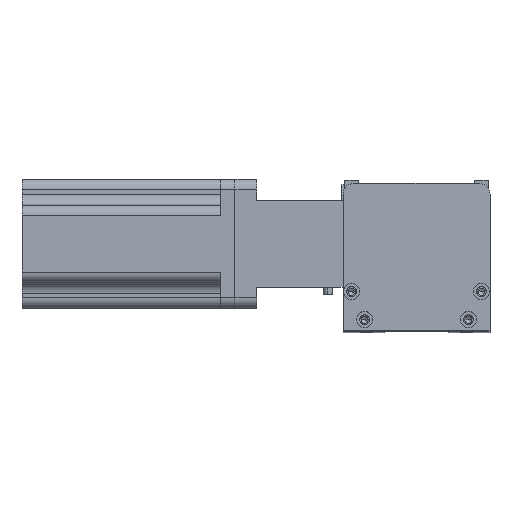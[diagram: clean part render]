
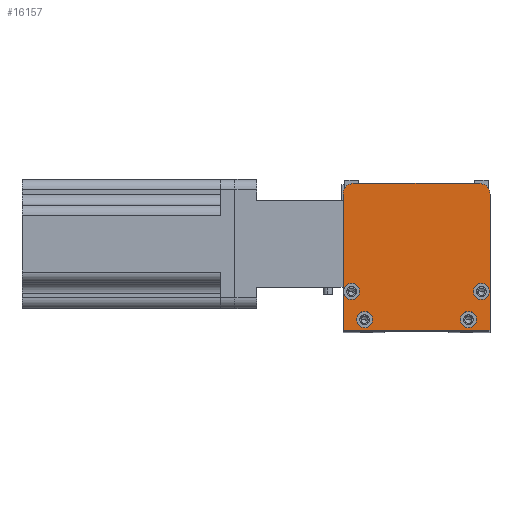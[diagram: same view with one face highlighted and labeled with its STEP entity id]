
A CAD part, top view. The second image highlights one B-rep face of the part: STEP entity #16157.
In plain terms, the highlighted planar face has unit normal (0, 0, 1) as drawn and (0, 0, -1) by its records, which use the part's own axes.
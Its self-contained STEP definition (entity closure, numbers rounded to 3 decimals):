
#373 = CARTESIAN_POINT ( 'NONE',  ( 63., 68., 0. ) ) ;
#496 = EDGE_CURVE ( 'NONE', #2301, #2922, #12650, .T. ) ;
#575 = CIRCLE ( 'NONE', #4475, 3.75 ) ;
#608 = VECTOR ( 'NONE', #11952, 1000. ) ;
#616 = CIRCLE ( 'NONE', #15157, 3.75 ) ;
#750 = FACE_BOUND ( 'NONE', #9769, .T. ) ;
#827 = CARTESIAN_POINT ( 'NONE',  ( 10., 5., 0. ) ) ;
#1018 = FACE_BOUND ( 'NONE', #12239, .T. ) ;
#1144 = CARTESIAN_POINT ( 'NONE',  ( 54.25, 5., 0. ) ) ;
#1243 = FACE_OUTER_BOUND ( 'NONE', #20964, .T. ) ;
#1267 = FACE_BOUND ( 'NONE', #1728, .T. ) ;
#1350 = CARTESIAN_POINT ( 'NONE',  ( 64., 18., 0. ) ) ;
#1420 = CARTESIAN_POINT ( 'NONE',  ( 7.75, 18., 0. ) ) ;
#1490 = FACE_BOUND ( 'NONE', #8173, .T. ) ;
#1728 = EDGE_LOOP ( 'NONE', ( #2124, #10707 ) ) ;
#1732 = EDGE_CURVE ( 'NONE', #18002, #15596, #8056, .T. ) ;
#1830 = DIRECTION ( 'NONE',  ( -1., 0., 0. ) ) ;
#2078 = LINE ( 'NONE', #19567, #608 ) ;
#2124 = ORIENTED_EDGE ( 'NONE', *, *, #8358, .F. ) ;
#2301 = VERTEX_POINT ( 'NONE', #2335 ) ;
#2335 = CARTESIAN_POINT ( 'NONE',  ( 61.75, 5., 0. ) ) ;
#2556 = DIRECTION ( 'NONE',  ( -1., 0., 0. ) ) ;
#2727 = DIRECTION ( 'NONE',  ( -1., 0., 0. ) ) ;
#2922 = VERTEX_POINT ( 'NONE', #1144 ) ;
#3001 = DIRECTION ( 'NONE',  ( 0., 0., 1. ) ) ;
#3230 = DIRECTION ( 'NONE',  ( -1., 0., 0. ) ) ;
#3483 = CARTESIAN_POINT ( 'NONE',  ( 6.25, 5., 0. ) ) ;
#3845 = ORIENTED_EDGE ( 'NONE', *, *, #16875, .F. ) ;
#3893 = VERTEX_POINT ( 'NONE', #12484 ) ;
#4475 = AXIS2_PLACEMENT_3D ( 'NONE', #24426, #12799, #1830 ) ;
#4509 = DIRECTION ( 'NONE',  ( 0., 0., -1. ) ) ;
#5171 = CARTESIAN_POINT ( 'NONE',  ( 67.75, 18., 0. ) ) ;
#5657 = CARTESIAN_POINT ( 'NONE',  ( 68., 0., 0. ) ) ;
#5693 = CARTESIAN_POINT ( 'NONE',  ( 63., 63., 0. ) ) ;
#5863 = EDGE_CURVE ( 'NONE', #11609, #7381, #17115, .T. ) ;
#5994 = EDGE_CURVE ( 'NONE', #7381, #18002, #16598, .T. ) ;
#6031 = ORIENTED_EDGE ( 'NONE', *, *, #23389, .F. ) ;
#6190 = CARTESIAN_POINT ( 'NONE',  ( 68., 0., 0. ) ) ;
#6444 = DIRECTION ( 'NONE',  ( -1., 0., 0. ) ) ;
#6632 = ORIENTED_EDGE ( 'NONE', *, *, #5994, .F. ) ;
#6685 = CARTESIAN_POINT ( 'NONE',  ( 4., 18., 0. ) ) ;
#7131 = AXIS2_PLACEMENT_3D ( 'NONE', #15536, #4509, #17477 ) ;
#7381 = VERTEX_POINT ( 'NONE', #8775 ) ;
#7556 = DIRECTION ( 'NONE',  ( 1., 0., 0. ) ) ;
#7817 = VECTOR ( 'NONE', #13462, 1000. ) ;
#7877 = ORIENTED_EDGE ( 'NONE', *, *, #19139, .F. ) ;
#8056 = LINE ( 'NONE', #6190, #7817 ) ;
#8173 = EDGE_LOOP ( 'NONE', ( #13208, #16594 ) ) ;
#8358 = EDGE_CURVE ( 'NONE', #2922, #2301, #9704, .T. ) ;
#8468 = PLANE ( 'NONE',  #20303 ) ;
#8490 = VERTEX_POINT ( 'NONE', #5171 ) ;
#8534 = DIRECTION ( 'NONE',  ( -1., 0., 0. ) ) ;
#8633 = AXIS2_PLACEMENT_3D ( 'NONE', #5693, #18743, #7556 ) ;
#8775 = CARTESIAN_POINT ( 'NONE',  ( 0., 0., 0. ) ) ;
#9272 = EDGE_CURVE ( 'NONE', #8490, #13370, #23948, .T. ) ;
#9704 = CIRCLE ( 'NONE', #13827, 3.75 ) ;
#9769 = EDGE_LOOP ( 'NONE', ( #13631, #3845 ) ) ;
#9819 = CARTESIAN_POINT ( 'NONE',  ( 58., 5., 0. ) ) ;
#9864 = AXIS2_PLACEMENT_3D ( 'NONE', #22185, #10653, #24099 ) ;
#10148 = CARTESIAN_POINT ( 'NONE',  ( 5., 68., 0. ) ) ;
#10397 = AXIS2_PLACEMENT_3D ( 'NONE', #9819, #23152, #2556 ) ;
#10593 = CARTESIAN_POINT ( 'NONE',  ( 5., 63., 0. ) ) ;
#10653 = DIRECTION ( 'NONE',  ( 0., 0., -1. ) ) ;
#10704 = AXIS2_PLACEMENT_3D ( 'NONE', #827, #13690, #2727 ) ;
#10707 = ORIENTED_EDGE ( 'NONE', *, *, #496, .F. ) ;
#10986 = DIRECTION ( 'NONE',  ( 0., -1., 0. ) ) ;
#11130 = ORIENTED_EDGE ( 'NONE', *, *, #5863, .F. ) ;
#11609 = VERTEX_POINT ( 'NONE', #20273 ) ;
#11805 = DIRECTION ( 'NONE',  ( 0., 0., -1. ) ) ;
#11868 = CIRCLE ( 'NONE', #19574, 3.75 ) ;
#11952 = DIRECTION ( 'NONE',  ( -1., 0., 0. ) ) ;
#12220 = CIRCLE ( 'NONE', #7131, 3.75 ) ;
#12239 = EDGE_LOOP ( 'NONE', ( #6031, #7877 ) ) ;
#12402 = CIRCLE ( 'NONE', #10704, 3.75 ) ;
#12436 = DIRECTION ( 'NONE',  ( 1., 0., 0. ) ) ;
#12484 = CARTESIAN_POINT ( 'NONE',  ( 0.25, 18., 0. ) ) ;
#12650 = CIRCLE ( 'NONE', #10397, 3.75 ) ;
#12799 = DIRECTION ( 'NONE',  ( 0., 0., -1. ) ) ;
#12994 = VERTEX_POINT ( 'NONE', #3483 ) ;
#13208 = ORIENTED_EDGE ( 'NONE', *, *, #21454, .F. ) ;
#13370 = VERTEX_POINT ( 'NONE', #20074 ) ;
#13460 = VERTEX_POINT ( 'NONE', #22410 ) ;
#13462 = DIRECTION ( 'NONE',  ( 0., 1., 0. ) ) ;
#13631 = ORIENTED_EDGE ( 'NONE', *, *, #20903, .F. ) ;
#13690 = DIRECTION ( 'NONE',  ( 0., 0., -1. ) ) ;
#13827 = AXIS2_PLACEMENT_3D ( 'NONE', #21663, #11805, #6444 ) ;
#13971 = CARTESIAN_POINT ( 'NONE',  ( 0., 0., 0. ) ) ;
#14198 = DIRECTION ( 'NONE',  ( 0., 0., -1. ) ) ;
#14449 = EDGE_CURVE ( 'NONE', #11609, #17380, #16021, .T. ) ;
#14905 = AXIS2_PLACEMENT_3D ( 'NONE', #10593, #24036, #12436 ) ;
#15157 = AXIS2_PLACEMENT_3D ( 'NONE', #1350, #14198, #3230 ) ;
#15536 = CARTESIAN_POINT ( 'NONE',  ( 10., 5., 0. ) ) ;
#15596 = VERTEX_POINT ( 'NONE', #23603 ) ;
#15674 = ORIENTED_EDGE ( 'NONE', *, *, #16088, .F. ) ;
#15802 = ORIENTED_EDGE ( 'NONE', *, *, #16932, .T. ) ;
#15890 = DIRECTION ( 'NONE',  ( 1., 0., 0. ) ) ;
#16021 = CIRCLE ( 'NONE', #14905, 5. ) ;
#16088 = EDGE_CURVE ( 'NONE', #18134, #17380, #2078, .T. ) ;
#16157 = ADVANCED_FACE ( 'NONE', ( #1490, #750, #1018, #1267, #1243 ), #8468, .F. ) ;
#16524 = ORIENTED_EDGE ( 'NONE', *, *, #14449, .T. ) ;
#16594 = ORIENTED_EDGE ( 'NONE', *, *, #9272, .F. ) ;
#16598 = LINE ( 'NONE', #20269, #16627 ) ;
#16627 = VECTOR ( 'NONE', #20528, 1000. ) ;
#16658 = ORIENTED_EDGE ( 'NONE', *, *, #1732, .F. ) ;
#16875 = EDGE_CURVE ( 'NONE', #20984, #3893, #575, .T. ) ;
#16932 = EDGE_CURVE ( 'NONE', #18134, #15596, #21908, .T. ) ;
#17073 = VECTOR ( 'NONE', #10986, 1000. ) ;
#17115 = LINE ( 'NONE', #22526, #17073 ) ;
#17380 = VERTEX_POINT ( 'NONE', #10148 ) ;
#17477 = DIRECTION ( 'NONE',  ( -1., 0., 0. ) ) ;
#18002 = VERTEX_POINT ( 'NONE', #5657 ) ;
#18134 = VERTEX_POINT ( 'NONE', #373 ) ;
#18743 = DIRECTION ( 'NONE',  ( 0., 0., -1. ) ) ;
#19139 = EDGE_CURVE ( 'NONE', #13460, #12994, #12220, .T. ) ;
#19567 = CARTESIAN_POINT ( 'NONE',  ( 68., 68., 0. ) ) ;
#19574 = AXIS2_PLACEMENT_3D ( 'NONE', #6685, #19830, #8534 ) ;
#19830 = DIRECTION ( 'NONE',  ( 0., 0., -1. ) ) ;
#20074 = CARTESIAN_POINT ( 'NONE',  ( 60.25, 18., 0. ) ) ;
#20269 = CARTESIAN_POINT ( 'NONE',  ( 68., 0., 0. ) ) ;
#20273 = CARTESIAN_POINT ( 'NONE',  ( 0., 63., 0. ) ) ;
#20303 = AXIS2_PLACEMENT_3D ( 'NONE', #13971, #3001, #15890 ) ;
#20528 = DIRECTION ( 'NONE',  ( 1., 0., 0. ) ) ;
#20903 = EDGE_CURVE ( 'NONE', #3893, #20984, #11868, .T. ) ;
#20964 = EDGE_LOOP ( 'NONE', ( #11130, #16524, #15674, #15802, #16658, #6632 ) ) ;
#20984 = VERTEX_POINT ( 'NONE', #1420 ) ;
#21454 = EDGE_CURVE ( 'NONE', #13370, #8490, #616, .T. ) ;
#21663 = CARTESIAN_POINT ( 'NONE',  ( 58., 5., 0. ) ) ;
#21908 = CIRCLE ( 'NONE', #8633, 5. ) ;
#22185 = CARTESIAN_POINT ( 'NONE',  ( 64., 18., 0. ) ) ;
#22410 = CARTESIAN_POINT ( 'NONE',  ( 13.75, 5., 0. ) ) ;
#22526 = CARTESIAN_POINT ( 'NONE',  ( 0., 0., 0. ) ) ;
#23152 = DIRECTION ( 'NONE',  ( 0., 0., -1. ) ) ;
#23389 = EDGE_CURVE ( 'NONE', #12994, #13460, #12402, .T. ) ;
#23603 = CARTESIAN_POINT ( 'NONE',  ( 68., 63., 0. ) ) ;
#23948 = CIRCLE ( 'NONE', #9864, 3.75 ) ;
#24036 = DIRECTION ( 'NONE',  ( 0., 0., -1. ) ) ;
#24099 = DIRECTION ( 'NONE',  ( -1., 0., 0. ) ) ;
#24426 = CARTESIAN_POINT ( 'NONE',  ( 4., 18., 0. ) ) ;
